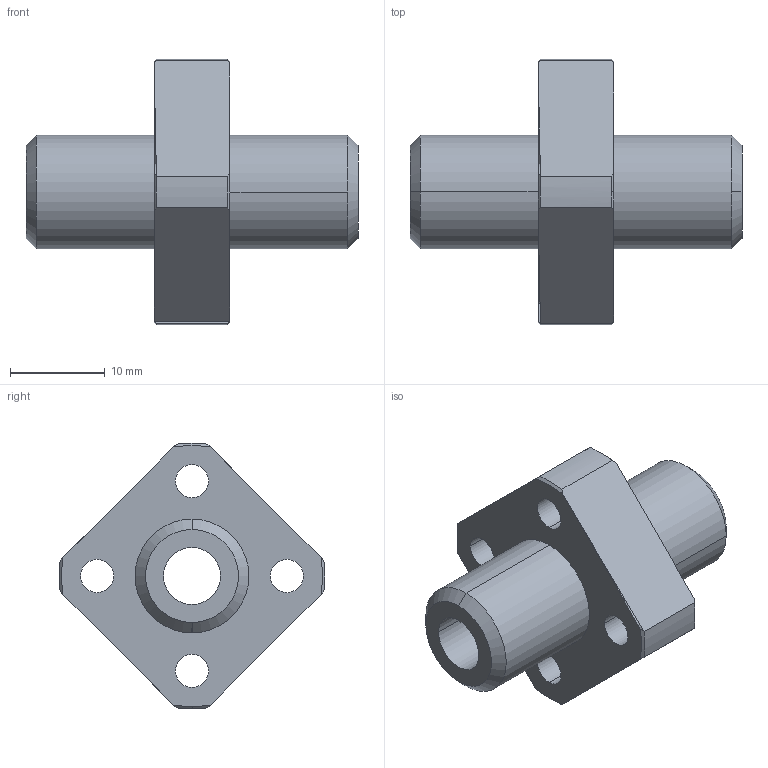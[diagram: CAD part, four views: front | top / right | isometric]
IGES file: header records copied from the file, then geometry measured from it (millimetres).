
Start section: 3D InterOp IGES (Version 21 0 1), Spatial Corp. Copyright (c) 1999-2007.
Global section: file name: CFPJ06.igs; native system: Spatial Corp.; preprocessor: 3D InterOp GENERIC/IGES 3.0; author: Noname; organization: Noname; date: 20220324.131000; units: millimetre
Bounding box: 35 x 27.98 x 28 mm (x, y, z)
Surface area: 3549.4 mm2 (no closed solid volume)
Topology: 0 solids, 0 shells, 53 faces, 264 edges, 264 vertices
Faces by surface type: revolution 41, extrusion 12
